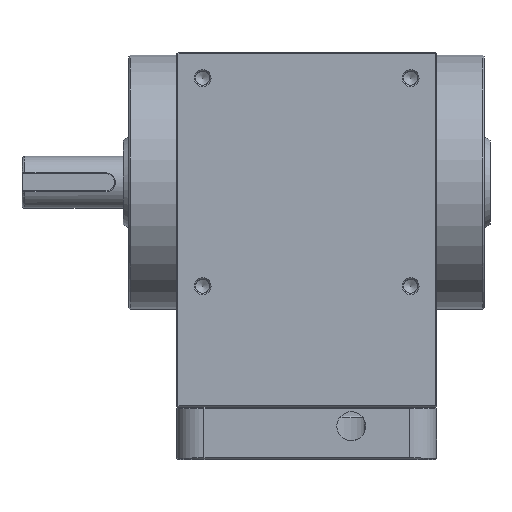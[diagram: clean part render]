
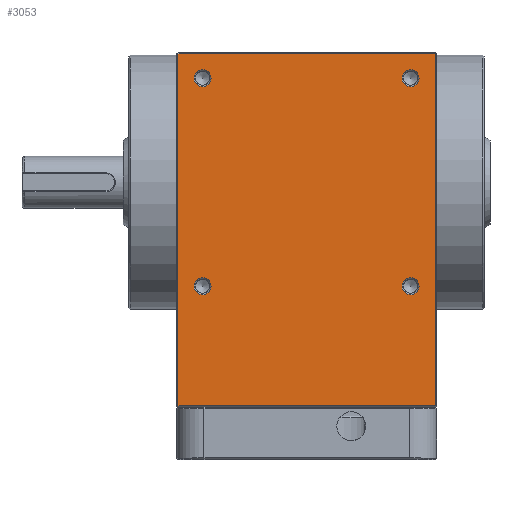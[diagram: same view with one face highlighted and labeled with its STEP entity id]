
A CAD part, top view. The second image highlights one B-rep face of the part: STEP entity #3053.
In plain terms, the highlighted planar face has unit normal (0, 0, 1).
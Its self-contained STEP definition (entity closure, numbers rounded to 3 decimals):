
#2391=CARTESIAN_POINT('',(44.5,-77.5,45.0));
#2392=VERTEX_POINT('',#2391);
#2447=CARTESIAN_POINT('',(44.5,44.5,45.0));
#2448=VERTEX_POINT('',#2447);
#2499=CARTESIAN_POINT('',(-44.5,-77.5,45.0));
#2500=VERTEX_POINT('',#2499);
#2531=CARTESIAN_POINT('',(-44.5,44.5,45.0));
#2532=VERTEX_POINT('',#2531);
#2584=CARTESIAN_POINT('',(-44.5,-77.5,45.0));
#2585=DIRECTION('',(0.0,1.0,0.0));
#2586=VECTOR('',#2585,122.0);
#2587=LINE('',#2584,#2586);
#2588=EDGE_CURVE('',#2500,#2532,#2587,.T.);
#2606=CARTESIAN_POINT('',(-44.5,44.5,45.0));
#2607=DIRECTION('',(1.0,0.0,0.0));
#2608=VECTOR('',#2607,89.);
#2609=LINE('',#2606,#2608);
#2610=EDGE_CURVE('',#2532,#2448,#2609,.T.);
#2651=CARTESIAN_POINT('',(44.5,-77.5,45.0));
#2652=DIRECTION('',(-1.0,0.0,0.0));
#2653=VECTOR('',#2652,89.);
#2654=LINE('',#2651,#2653);
#2655=EDGE_CURVE('',#2392,#2500,#2654,.T.);
#2673=CARTESIAN_POINT('',(44.5,44.5,45.0));
#2674=DIRECTION('',(0.0,-1.0,0.0));
#2675=VECTOR('',#2674,122.0);
#2676=LINE('',#2673,#2675);
#2677=EDGE_CURVE('',#2448,#2392,#2676,.T.);
#2998=CARTESIAN_POINT('',(0.,0.,45.0));
#2999=DIRECTION('',(0.0,0.0,1.0));
#3000=DIRECTION('',(1.0,0.0,0.0));
#3001=AXIS2_PLACEMENT_3D('',#2998,#2999,#3000);
#3002=PLANE('',#3001);
#3003=ORIENTED_EDGE('',*,*,#2588,.F.);
#3004=ORIENTED_EDGE('',*,*,#2655,.F.);
#3005=ORIENTED_EDGE('',*,*,#2677,.F.);
#3006=ORIENTED_EDGE('',*,*,#2610,.F.);
#3007=EDGE_LOOP('',(#3003,#3004,#3005,#3006));
#3008=FACE_OUTER_BOUND('',#3007,.T.);
#3009=CARTESIAN_POINT('',(33.042,-36.0,45.0));
#3010=VERTEX_POINT('',#3009);
#3011=CARTESIAN_POINT('',(36.,-36.0,45.0));
#3012=DIRECTION('',(0.0,0.0,1.0));
#3013=DIRECTION('',(1.0,0.0,0.0));
#3014=AXIS2_PLACEMENT_3D('',#3011,#3012,#3013);
#3015=CIRCLE('',#3014,2.958);
#3016=EDGE_CURVE('',#3010,#3010,#3015,.T.);
#3017=ORIENTED_EDGE('',*,*,#3016,.F.);
#3018=EDGE_LOOP('',(#3017));
#3019=FACE_BOUND('',#3018,.T.);
#3020=CARTESIAN_POINT('',(-33.042,-36.,45.0));
#3021=VERTEX_POINT('',#3020);
#3022=CARTESIAN_POINT('',(-36.,-36.,45.0));
#3023=DIRECTION('',(0.0,0.0,1.0));
#3024=DIRECTION('',(-1.0,0.0,0.0));
#3025=AXIS2_PLACEMENT_3D('',#3022,#3023,#3024);
#3026=CIRCLE('',#3025,2.958);
#3027=EDGE_CURVE('',#3021,#3021,#3026,.T.);
#3028=ORIENTED_EDGE('',*,*,#3027,.F.);
#3029=EDGE_LOOP('',(#3028));
#3030=FACE_BOUND('',#3029,.T.);
#3031=CARTESIAN_POINT('',(-33.042,36.,45.0));
#3032=VERTEX_POINT('',#3031);
#3033=CARTESIAN_POINT('',(-36.,36.,45.0));
#3034=DIRECTION('',(0.0,0.0,1.0));
#3035=DIRECTION('',(-1.0,0.0,0.0));
#3036=AXIS2_PLACEMENT_3D('',#3033,#3034,#3035);
#3037=CIRCLE('',#3036,2.958);
#3038=EDGE_CURVE('',#3032,#3032,#3037,.T.);
#3039=ORIENTED_EDGE('',*,*,#3038,.F.);
#3040=EDGE_LOOP('',(#3039));
#3041=FACE_BOUND('',#3040,.T.);
#3042=CARTESIAN_POINT('',(33.042,36.0,45.0));
#3043=VERTEX_POINT('',#3042);
#3044=CARTESIAN_POINT('',(36.,36.0,45.0));
#3045=DIRECTION('',(0.0,0.0,1.0));
#3046=DIRECTION('',(1.0,0.0,0.0));
#3047=AXIS2_PLACEMENT_3D('',#3044,#3045,#3046);
#3048=CIRCLE('',#3047,2.958);
#3049=EDGE_CURVE('',#3043,#3043,#3048,.T.);
#3050=ORIENTED_EDGE('',*,*,#3049,.F.);
#3051=EDGE_LOOP('',(#3050));
#3052=FACE_BOUND('',#3051,.T.);
#3053=ADVANCED_FACE('',(#3008,#3019,#3030,#3041,#3052),#3002,.T.);
